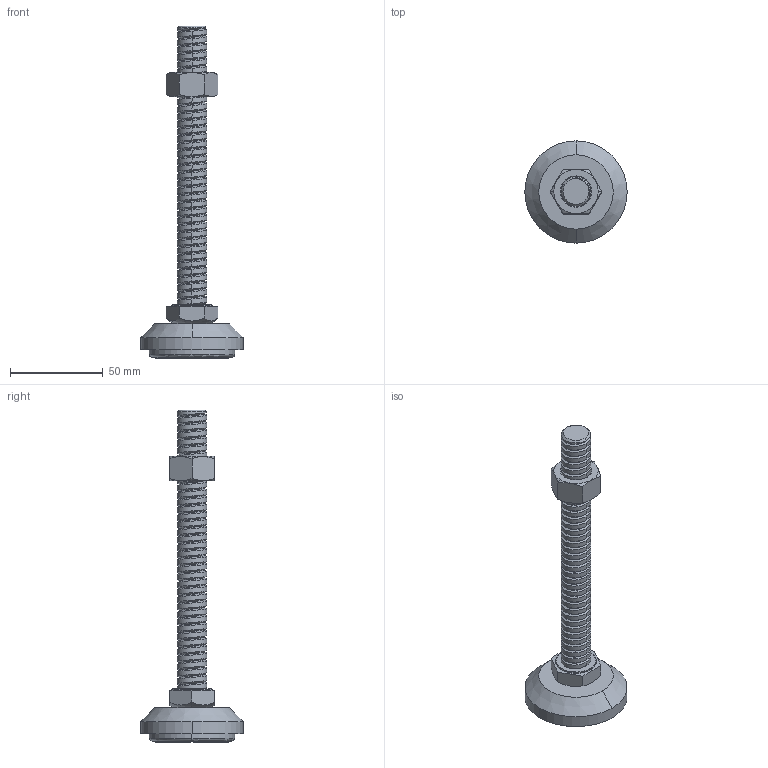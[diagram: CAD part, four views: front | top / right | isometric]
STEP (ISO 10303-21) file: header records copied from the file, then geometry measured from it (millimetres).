
FILE_DESCRIPTION (( 'STEP AP203' ), '1' );
FILE_NAME ('F-102-2-6016-150.STEP', '2015-11-24T02:01:03', ( '' ), ( '' ), 'SwSTEP 2.0', 'SolidWorks 2014', '' );
FILE_SCHEMA (( 'CONFIG_CONTROL_DESIGN' ));
Length unit declared in the file: millimetre
Products named in the file (5): 50橡膠墊-4; M16螺帽-5; DT-M16X150L-10調整螺絲; DK-08-50圓鐵蓋-M12-1; F-102-2-6016-150
Assembly tree (4 placements, depth 2):
  F-102-2-6016-150
    50橡膠墊-4
    M16螺帽-5
    DT-M16X150L-10調整螺絲
    DK-08-50圓鐵蓋-M12-1
Bounding box: 55 x 55 x 178.5 mm (x, y, z)
Volume: 72959.1 mm3; surface area: 26855.5 mm2
Topology: 4 solids, 4 shells, 217 faces, 536 edges, 340 vertices
Faces by surface type: cylinder 103, cone 47, plane 37, bspline 30
Entity records: 17092 total; most frequent: CARTESIAN_POINT 12138, ORIENTED_EDGE 1072, DIRECTION 788, EDGE_CURVE 536, VERTEX_POINT 340, AXIS2_PLACEMENT_3D 305, EDGE_LOOP 234, FACE_OUTER_BOUND 217
